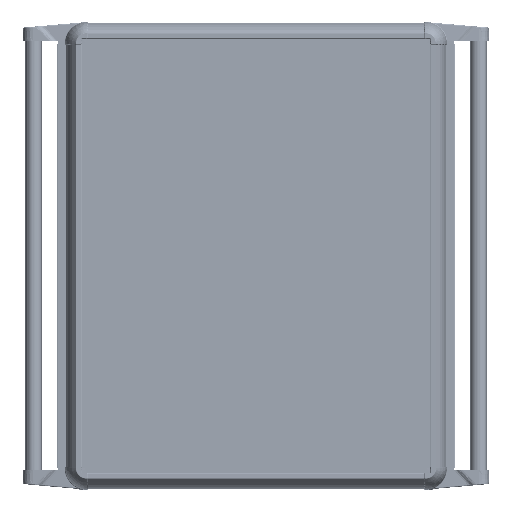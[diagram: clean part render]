
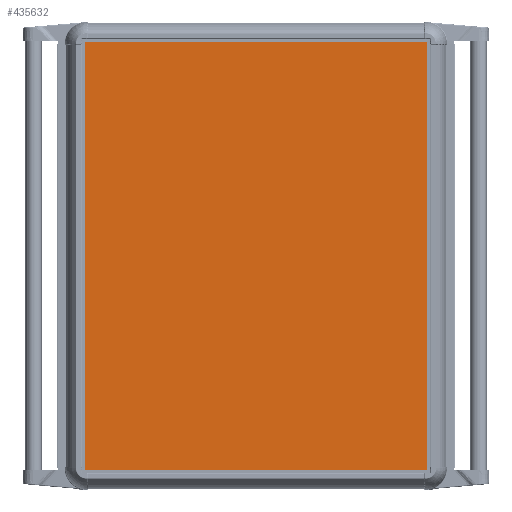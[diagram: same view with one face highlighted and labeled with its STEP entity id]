
A CAD part, top view. The second image highlights one B-rep face of the part: STEP entity #435632.
In plain terms, the highlighted planar face has unit normal (0, 0, 1).
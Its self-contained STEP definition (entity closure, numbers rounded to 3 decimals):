
#18061 = EDGE_LOOP ( 'NONE', ( #390287, #427974, #201906, #152262 ) ) ;
#28022 = LINE ( 'NONE', #270403, #202689 ) ;
#32053 = CARTESIAN_POINT ( 'NONE',  ( 200., -250., 2. ) ) ;
#37901 = PLANE ( 'NONE',  #129700 ) ;
#46943 = FACE_OUTER_BOUND ( 'NONE', #18061, .T. ) ;
#55479 = DIRECTION ( 'NONE',  ( -1., 0., 0. ) ) ;
#67136 = EDGE_CURVE ( 'NONE', #167154, #170630, #282330, .T. ) ;
#109080 = CARTESIAN_POINT ( 'NONE',  ( -200., -250., 2. ) ) ;
#113964 = CARTESIAN_POINT ( 'NONE',  ( 0., 0., 2. ) ) ;
#124684 = LINE ( 'NONE', #406188, #370958 ) ;
#129700 = AXIS2_PLACEMENT_3D ( 'NONE', #113964, #250263, #390954 ) ;
#148820 = CARTESIAN_POINT ( 'NONE',  ( 200., 250., 2. ) ) ;
#152262 = ORIENTED_EDGE ( 'NONE', *, *, #67136, .T. ) ;
#157758 = DIRECTION ( 'NONE',  ( 0., 1., 0. ) ) ;
#166847 = CARTESIAN_POINT ( 'NONE',  ( 200., 250., 2. ) ) ;
#167154 = VERTEX_POINT ( 'NONE', #408322 ) ;
#170630 = VERTEX_POINT ( 'NONE', #32053 ) ;
#201906 = ORIENTED_EDGE ( 'NONE', *, *, #217128, .T. ) ;
#202689 = VECTOR ( 'NONE', #448066, 1000. ) ;
#217128 = EDGE_CURVE ( 'NONE', #290889, #167154, #28022, .T. ) ;
#217690 = VERTEX_POINT ( 'NONE', #148820 ) ;
#247704 = DIRECTION ( 'NONE',  ( 1., 0., 0. ) ) ;
#249666 = EDGE_CURVE ( 'NONE', #217690, #290889, #124684, .T. ) ;
#250263 = DIRECTION ( 'NONE',  ( 0., 0., 1. ) ) ;
#270403 = CARTESIAN_POINT ( 'NONE',  ( -200., 250., 2. ) ) ;
#282330 = LINE ( 'NONE', #109080, #382506 ) ;
#290889 = VERTEX_POINT ( 'NONE', #363866 ) ;
#335499 = LINE ( 'NONE', #166847, #366104 ) ;
#363866 = CARTESIAN_POINT ( 'NONE',  ( -200., 250., 2. ) ) ;
#366104 = VECTOR ( 'NONE', #157758, 1000. ) ;
#370958 = VECTOR ( 'NONE', #55479, 1000. ) ;
#382506 = VECTOR ( 'NONE', #247704, 1000. ) ;
#390287 = ORIENTED_EDGE ( 'NONE', *, *, #418179, .T. ) ;
#390954 = DIRECTION ( 'NONE',  ( 1., 0., 0. ) ) ;
#406188 = CARTESIAN_POINT ( 'NONE',  ( -200., 250., 2. ) ) ;
#408322 = CARTESIAN_POINT ( 'NONE',  ( -200., -250., 2. ) ) ;
#418179 = EDGE_CURVE ( 'NONE', #170630, #217690, #335499, .T. ) ;
#427974 = ORIENTED_EDGE ( 'NONE', *, *, #249666, .T. ) ;
#435632 = ADVANCED_FACE ( 'NONE', ( #46943 ), #37901, .T. ) ;
#448066 = DIRECTION ( 'NONE',  ( 0., -1., 0. ) ) ;
